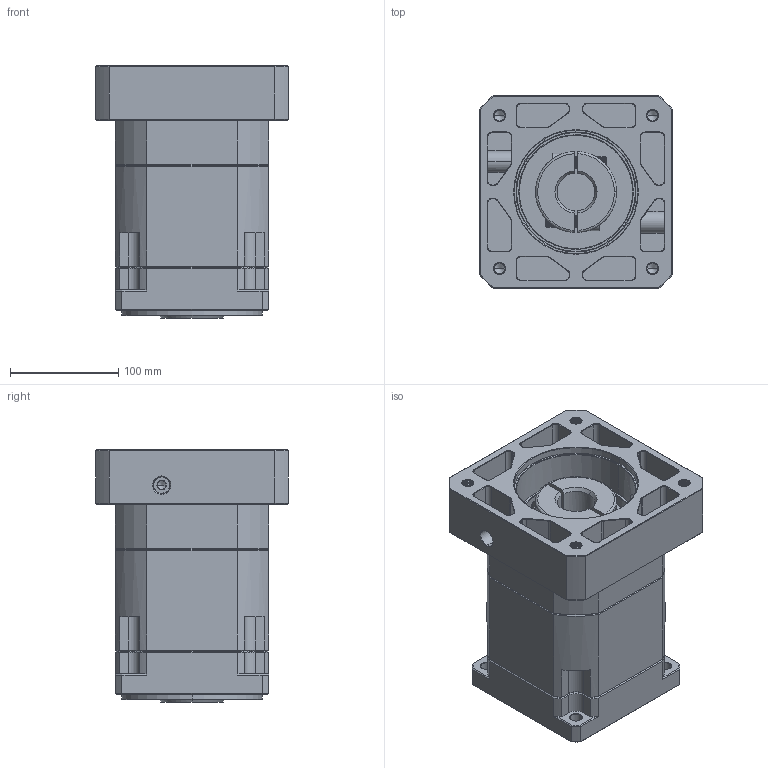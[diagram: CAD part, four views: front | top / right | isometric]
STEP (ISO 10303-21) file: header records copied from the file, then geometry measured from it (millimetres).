
FILE_DESCRIPTION (( 'STEP AP214' ), '1' );
FILE_NAME ('ZB142A-K35-L2-P2-35-114.3-200-M12.step', '2023-09-01T11:47:33', ( '' ), ( '' ), 'SwSTEP 2.0', 'SolidWorks 2016', '' );
FILE_SCHEMA (( 'AUTOMOTIVE_DESIGN' ));
Length unit declared in the file: millimetre
Products named in the file (1): ZB142A-K35-L2-P2-35-114.3-200-M12
Bounding box: 178 x 178 x 233.2 mm (x, y, z)
Volume: 4153794.3 mm3; surface area: 365891.5 mm2
Topology: 6 solids, 6 shells, 2415 faces, 6436 edges, 4132 vertices
Faces by surface type: plane 1186, cylinder 420, bspline 404, cone 385, torus 20
Entity records: 129857 total; most frequent: CARTESIAN_POINT 46028, ORIENTED_EDGE 12816, DIRECTION 10444, EDGE_CURVE 6408, VERTEX_POINT 4132, VECTOR 4114, LINE 4114, AXIS2_PLACEMENT_3D 3165
